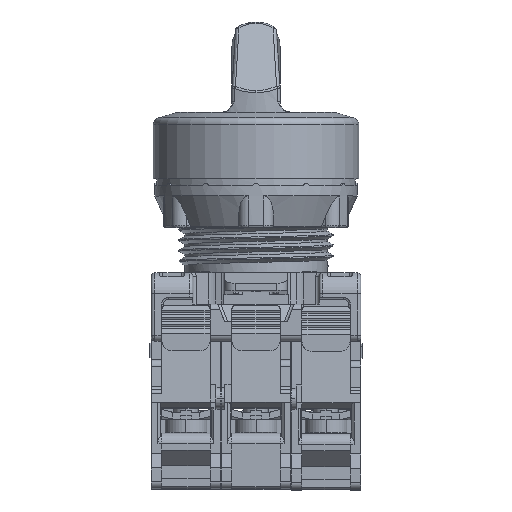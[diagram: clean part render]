
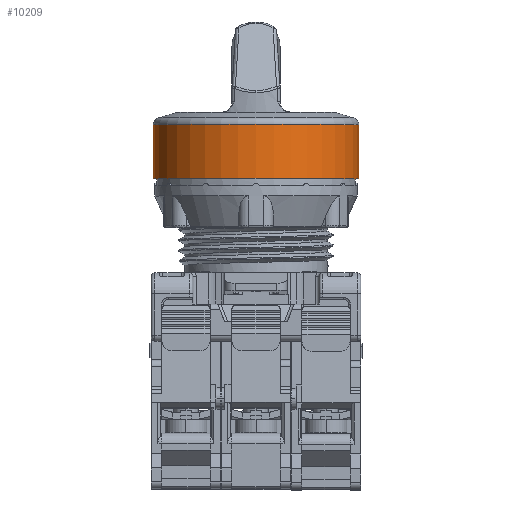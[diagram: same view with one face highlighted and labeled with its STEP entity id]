
A CAD part, top view. The second image highlights one B-rep face of the part: STEP entity #10209.
In plain terms, the highlighted cylindrical face has radius 14.75 mm (diameter 29.5 mm), a partial arc.
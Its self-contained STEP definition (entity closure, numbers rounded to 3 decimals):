
#2368 = EDGE_CURVE ( 'NONE', #64868, #85713, #28169, .T. ) ;
#4071 = CARTESIAN_POINT ( 'NONE',  ( 14.75, 0., 7.749 ) ) ;
#4850 = FACE_OUTER_BOUND ( 'NONE', #93301, .T. ) ;
#7121 = EDGE_CURVE ( 'NONE', #98000, #64868, #25080, .T. ) ;
#10209 = ADVANCED_FACE ( 'NONE', ( #4850 ), #31540, .T. ) ;
#14828 = DIRECTION ( 'NONE',  ( 0., 0., 1. ) ) ;
#15848 = AXIS2_PLACEMENT_3D ( 'NONE', #62119, #50296, #115573 ) ;
#17574 = VERTEX_POINT ( 'NONE', #115802 ) ;
#18255 = AXIS2_PLACEMENT_3D ( 'NONE', #102806, #94460, #84392 ) ;
#18425 = ORIENTED_EDGE ( 'NONE', *, *, #50731, .F. ) ;
#18918 = VECTOR ( 'NONE', #91690, 1000. ) ;
#20917 = AXIS2_PLACEMENT_3D ( 'NONE', #84892, #14828, #86060 ) ;
#23318 = CARTESIAN_POINT ( 'NONE',  ( -14.75, 0., 0. ) ) ;
#25080 = CIRCLE ( 'NONE', #15848, 14.75 ) ;
#25106 = VECTOR ( 'NONE', #112105, 1000. ) ;
#26372 = ORIENTED_EDGE ( 'NONE', *, *, #117365, .T. ) ;
#28169 = LINE ( 'NONE', #82784, #18918 ) ;
#31540 = CYLINDRICAL_SURFACE ( 'NONE', #18255, 14.75 ) ;
#44718 = CARTESIAN_POINT ( 'NONE',  ( -14.75, 0., 7.749 ) ) ;
#50296 = DIRECTION ( 'NONE',  ( 0., 0., 1. ) ) ;
#50731 = EDGE_CURVE ( 'NONE', #17574, #85713, #111934, .T. ) ;
#58058 = LINE ( 'NONE', #4071, #25106 ) ;
#62119 = CARTESIAN_POINT ( 'NONE',  ( 0., 0., 0. ) ) ;
#64868 = VERTEX_POINT ( 'NONE', #23318 ) ;
#82784 = CARTESIAN_POINT ( 'NONE',  ( -14.75, 0., 0. ) ) ;
#84392 = DIRECTION ( 'NONE',  ( 1., 0., 0. ) ) ;
#84892 = CARTESIAN_POINT ( 'NONE',  ( 0., 0., 7.749 ) ) ;
#85585 = ORIENTED_EDGE ( 'NONE', *, *, #2368, .T. ) ;
#85713 = VERTEX_POINT ( 'NONE', #44718 ) ;
#86060 = DIRECTION ( 'NONE',  ( 1., 0., 0. ) ) ;
#88472 = CARTESIAN_POINT ( 'NONE',  ( 14.75, 0., 0. ) ) ;
#91690 = DIRECTION ( 'NONE',  ( 0., 0., 1. ) ) ;
#93301 = EDGE_LOOP ( 'NONE', ( #110654, #85585, #18425, #26372 ) ) ;
#94460 = DIRECTION ( 'NONE',  ( 0., 0., -1. ) ) ;
#98000 = VERTEX_POINT ( 'NONE', #88472 ) ;
#102806 = CARTESIAN_POINT ( 'NONE',  ( 0., 0., 8.4 ) ) ;
#110654 = ORIENTED_EDGE ( 'NONE', *, *, #7121, .T. ) ;
#111934 = CIRCLE ( 'NONE', #20917, 14.75 ) ;
#112105 = DIRECTION ( 'NONE',  ( 0., 0., -1. ) ) ;
#115573 = DIRECTION ( 'NONE',  ( 1., 0., 0. ) ) ;
#115802 = CARTESIAN_POINT ( 'NONE',  ( 14.75, 0., 7.749 ) ) ;
#117365 = EDGE_CURVE ( 'NONE', #17574, #98000, #58058, .T. ) ;
